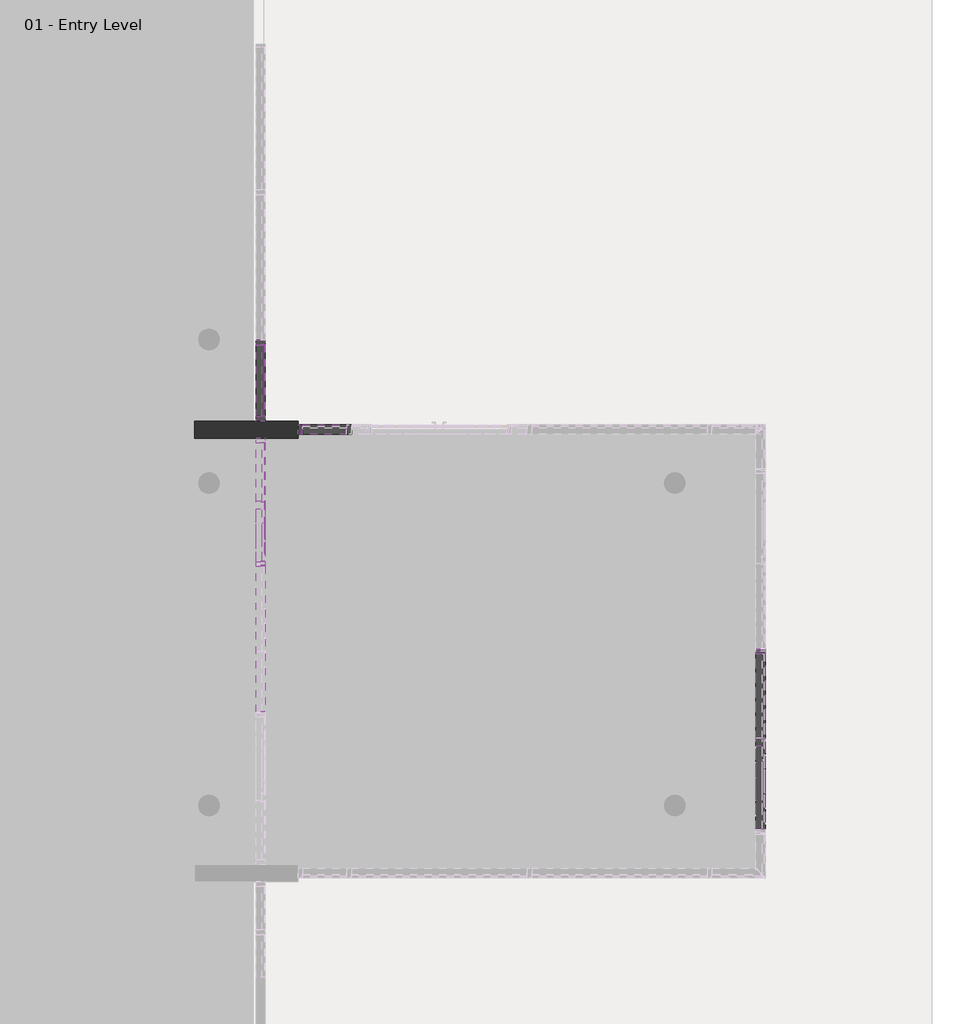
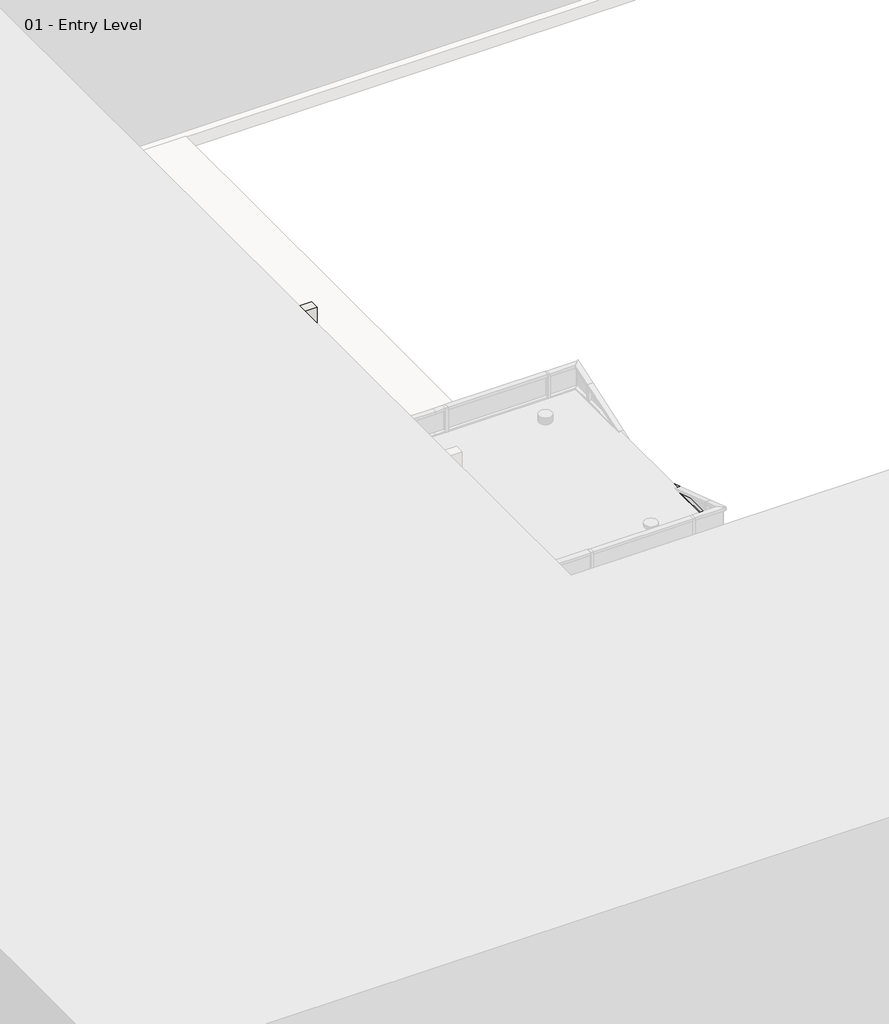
# One storey, part 15 of 34: 99 members, 19 plates, 1 wall.
"""IFC4 building model written with IfcOpenShell, lengths in millimetres."""

from ifc_helpers import new_model, si_unit, origin, origin_with_axes, place, context, project, spatial, polyline, outline, extrude, transform, mapped, element, save
from components import member_2b49869a, member_75074519, member_391b434c, member_9e90ae50, member_6f7cbf6b, member_280eb951, member_97732064, member_4efea63f, member_b0570460, member_a66a3142, member_c840947a, member_9193c932, member_18e22e2d, member_6e77e263, member_47bfaf8a, member_b2bde9e6, member_89bfb2f9, member_7bb0cd3e, member_f4359540, member_659f2ef3, member_5aa65f11, member_b5354135, member_c327c56d, member_2eb7018d, member_02b8d6b6, system_panel_glazed_f9d9f547, system_panel_glazed_3c16f4b8, system_panel_glazed_f6fca0b1, system_panel_glazed_f30ba6ae, system_panel_glazed_bfb2913e, system_panel_glazed_9f006979, system_panel_glazed_0805a858, system_panel_glazed_439dd39a, system_panel_glazed_65392b54

model = new_model("IFC4")

# Units and contexts
model_context = context("Model", 3, world=origin())
ifc_project = project(units=[si_unit("LENGTHUNIT", "METRE", prefix="MILLI")], contexts=[model_context])

# Site, building, storey
site = spatial("IfcSite", under=ifc_project)
building = spatial("IfcBuilding", under=site)
storey = spatial("IfcBuildingStorey", under=building, Name="01 - Entry Level", Elevation=0.0)

# Members
placement = place(None, origin())
member_shape = member_2b49869a(model_context)
element("IfcMember", 1, ObjectType="Rectangular Mullion : 2.5\" x 5\" rectangular", at=placement, inside=storey, context=model_context, shape_type="MappedRepresentation", body=[
    mapped(member_shape, transform((17184.0207476, 23720.35, 9753.6), x_axis=(0.0, 1.0, 0.0), y_axis=(1.0, 0.0, 0.0), z_axis=(0.0, 0.0, -1.0))),
])
element("IfcMember", 2, ObjectType="Rectangular Mullion : 2.5\" x 5\" rectangular", at=placement, inside=storey, context=model_context, shape_type="MappedRepresentation", body=[
    mapped(member_shape, transform((17184.0207476, 20729.5, 9753.6), x_axis=(0.0, 1.0, 0.0), y_axis=(1.0, 0.0, 0.0), z_axis=(0.0, 0.0, -1.0))),
])
member_2_shape = member_75074519(model_context)
element("IfcMember", 3, ObjectType="Rectangular Mullion : 2.5\" x 5\" rectangular", at=placement, inside=storey, context=model_context, shape_type="MappedRepresentation", body=[
    mapped(member_2_shape, transform((17184.0207476, 22659.9, 10972.8), x_axis=(0.0, -1.0, 0.0), y_axis=(1.0, 0.0, 0.0), z_axis=(0.0, 0.0, 1.0))),
])
element("IfcMember", 4, ObjectType="Rectangular Mullion : 2.5\" x 5\" rectangular", at=placement, inside=storey, context=model_context, shape_type="MappedRepresentation", body=[
    mapped(member_2_shape, transform((17184.0207476, 22431.3, 9753.6), x_axis=(0.0, 1.0, 0.0), y_axis=(1.0, 0.0, 0.0), z_axis=(0.0, 0.0, -1.0))),
])
member_3_shape = member_391b434c(model_context)
element("IfcMember", 5, ObjectType="Rectangular Mullion : 2.5\" x 5\" rectangular", at=placement, inside=storey, context=model_context, shape_type="MappedRepresentation", body=[
    mapped(member_3_shape, transform((17184.0207476, 20697.75, 10972.8), x_axis=(0.0, 0.0, 1.0), y_axis=(1.0, 0.0, 0.0), z_axis=(0.0, 1.0, 0.0))),
])
element("IfcMember", 6, ObjectType="Rectangular Mullion : 2.5\" x 5\" rectangular", at=placement, inside=storey, context=model_context, shape_type="MappedRepresentation", body=[
    mapped(member_3_shape, transform((17184.0207476, 23752.1, 0.0), x_axis=(0.0, 0.0, -1.0), y_axis=(1.0, 0.0, 0.0), z_axis=(0.0, -1.0, 0.0))),
])
member_4_shape = member_9e90ae50(model_context)
element("IfcMember", 7, ObjectType="Rectangular Mullion : 2.5\" x 5\" rectangular", at=placement, inside=storey, context=model_context, shape_type="MappedRepresentation", body=[
    mapped(member_4_shape, transform((17184.0207476, 20697.75, 7315.2), x_axis=(0.0, 0.0, 1.0), y_axis=(1.0, 0.0, 0.0), z_axis=(0.0, 1.0, 0.0))),
])
element("IfcMember", 8, ObjectType="Rectangular Mullion : 2.5\" x 5\" rectangular", at=placement, inside=storey, context=model_context, shape_type="MappedRepresentation", body=[
    mapped(member_4_shape, transform((17184.0207476, 20697.75, 8534.4), x_axis=(0.0, 0.0, 1.0), y_axis=(1.0, 0.0, 0.0), z_axis=(0.0, 1.0, 0.0))),
])
element("IfcMember", 9, ObjectType="Rectangular Mullion : 2.5\" x 5\" rectangular", at=placement, inside=storey, context=model_context, shape_type="MappedRepresentation", body=[
    mapped(member_4_shape, transform((17184.0207476, 20697.75, 9753.6), x_axis=(0.0, 0.0, 1.0), y_axis=(1.0, 0.0, 0.0), z_axis=(0.0, 1.0, 0.0))),
])
element("IfcMember", 10, ObjectType="Rectangular Mullion : 2.5\" x 5\" rectangular", at=placement, inside=storey, context=model_context, shape_type="MappedRepresentation", body=[
    mapped(member_shape, transform((17184.0207476, 23720.35, 0.0), x_axis=(0.0, 1.0, 0.0), y_axis=(1.0, 0.0, 0.0), z_axis=(0.0, 0.0, -1.0))),
])
element("IfcMember", 11, ObjectType="Rectangular Mullion : 2.5\" x 5\" rectangular", at=placement, inside=storey, context=model_context, shape_type="MappedRepresentation", body=[
    mapped(member_shape, transform((17184.0207476, 23720.35, 1219.2), x_axis=(0.0, 1.0, 0.0), y_axis=(1.0, 0.0, 0.0), z_axis=(0.0, 0.0, -1.0))),
])
element("IfcMember", 12, ObjectType="Rectangular Mullion : 2.5\" x 5\" rectangular", at=placement, inside=storey, context=model_context, shape_type="MappedRepresentation", body=[
    mapped(member_shape, transform((17184.0207476, 23720.35, 2438.4), x_axis=(0.0, 1.0, 0.0), y_axis=(1.0, 0.0, 0.0), z_axis=(0.0, 0.0, -1.0))),
])
element("IfcMember", 13, ObjectType="Rectangular Mullion : 2.5\" x 5\" rectangular", at=placement, inside=storey, context=model_context, shape_type="MappedRepresentation", body=[
    mapped(member_shape, transform((17184.0207476, 23720.35, 3657.6), x_axis=(0.0, 1.0, 0.0), y_axis=(1.0, 0.0, 0.0), z_axis=(0.0, 0.0, -1.0))),
])
element("IfcMember", 14, ObjectType="Rectangular Mullion : 2.5\" x 5\" rectangular", at=placement, inside=storey, context=model_context, shape_type="MappedRepresentation", body=[
    mapped(member_shape, transform((17184.0207476, 23720.35, 4876.8), x_axis=(0.0, 1.0, 0.0), y_axis=(1.0, 0.0, 0.0), z_axis=(0.0, 0.0, -1.0))),
])
element("IfcMember", 15, ObjectType="Rectangular Mullion : 2.5\" x 5\" rectangular", at=placement, inside=storey, context=model_context, shape_type="MappedRepresentation", body=[
    mapped(member_shape, transform((17184.0207476, 23720.35, 6096.0), x_axis=(0.0, 1.0, 0.0), y_axis=(1.0, 0.0, 0.0), z_axis=(0.0, 0.0, -1.0))),
])
element("IfcMember", 16, ObjectType="Rectangular Mullion : 2.5\" x 5\" rectangular", at=placement, inside=storey, context=model_context, shape_type="MappedRepresentation", body=[
    mapped(member_shape, transform((17184.0207476, 23720.35, 7315.2), x_axis=(0.0, 1.0, 0.0), y_axis=(1.0, 0.0, 0.0), z_axis=(0.0, 0.0, -1.0))),
])
element("IfcMember", 17, ObjectType="Rectangular Mullion : 2.5\" x 5\" rectangular", at=placement, inside=storey, context=model_context, shape_type="MappedRepresentation", body=[
    mapped(member_shape, transform((17184.0207476, 23720.35, 8534.4), x_axis=(0.0, 1.0, 0.0), y_axis=(1.0, 0.0, 0.0), z_axis=(0.0, 0.0, -1.0))),
])
element("IfcMember", 18, ObjectType="Rectangular Mullion : 2.5\" x 5\" rectangular", at=placement, inside=storey, context=model_context, shape_type="MappedRepresentation", body=[
    mapped(member_shape, transform((17184.0207476, 20729.5, 7315.2), x_axis=(0.0, 1.0, 0.0), y_axis=(1.0, 0.0, 0.0), z_axis=(0.0, 0.0, -1.0))),
])
element("IfcMember", 19, ObjectType="Rectangular Mullion : 2.5\" x 5\" rectangular", at=placement, inside=storey, context=model_context, shape_type="MappedRepresentation", body=[
    mapped(member_shape, transform((17184.0207476, 20729.5, 8534.4), x_axis=(0.0, 1.0, 0.0), y_axis=(1.0, 0.0, 0.0), z_axis=(0.0, 0.0, -1.0))),
])
member_5_shape = member_6f7cbf6b(model_context)
element("IfcMember", 20, ObjectType="Rectangular Mullion : 2.5\" x 5\" rectangular", at=placement, inside=storey, context=model_context, shape_type="MappedRepresentation", body=[
    mapped(member_5_shape, transform((17184.0207476, 22367.8, 10972.8), x_axis=(0.0, 0.0, 1.0), y_axis=(1.0, 0.0, 0.0), z_axis=(0.0, 1.0, 0.0))),
])
member_6_shape = member_280eb951(model_context)
element("IfcMember", 21, ObjectType="Rectangular Mullion : 2.5\" x 5\" rectangular", at=placement, inside=storey, context=model_context, shape_type="MappedRepresentation", body=[
    mapped(member_6_shape, transform((17184.0207476, 20729.5, 7031.1207436), x_axis=(0.0, 0.31622776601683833, -0.9486832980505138), y_axis=(1.0, 0.0, 0.0), z_axis=(0.0, -0.9486832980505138, -0.31622776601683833))),
])
member_7_shape = member_97732064(model_context)
element("IfcMember", 22, ObjectType="Rectangular Mullion : 2.5\" x 5\" rectangular", at=placement, inside=storey, context=model_context, shape_type="MappedRepresentation", body=[
    mapped(member_7_shape, transform((17184.0207476, 21581.7377692, 7315.2), x_axis=(0.0, 0.3162277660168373, -0.9486832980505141), y_axis=(1.0, 0.0, 0.0), z_axis=(0.0, -0.948683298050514, -0.3162277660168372))),
])
member_8_shape = member_4efea63f(model_context)
element("IfcMember", 23, ObjectType="Rectangular Mullion : 2.5\" x 5\" rectangular", at=placement, inside=storey, context=model_context, shape_type="MappedRepresentation", body=[
    mapped(member_8_shape, transform((17184.0207476, 21581.7377692, 7315.2), x_axis=(0.0, 0.0, 1.0), y_axis=(1.0, 0.0, 0.0), z_axis=(0.0, 1.0, 0.0))),
])
member_9_shape = member_b0570460(model_context)
element("IfcMember", 24, ObjectType="Rectangular Mullion : 2.5\" x 5\" rectangular", at=placement, inside=storey, context=model_context, shape_type="MappedRepresentation", body=[
    mapped(member_9_shape, transform((17184.0207476, 22367.8, 8534.4), x_axis=(0.0, 0.0, 1.0), y_axis=(1.0, 0.0, 0.0), z_axis=(0.0, 1.0, 0.0))),
])
element("IfcMember", 25, ObjectType="Rectangular Mullion : 2.5\" x 5\" rectangular", at=placement, inside=storey, context=model_context, shape_type="MappedRepresentation", body=[
    mapped(member_9_shape, transform((17184.0207476, 22367.8, 9753.6), x_axis=(0.0, 0.0, 1.0), y_axis=(1.0, 0.0, 0.0), z_axis=(0.0, 1.0, 0.0))),
])
member_10_shape = member_a66a3142(model_context)
element("IfcMember", 26, ObjectType="Rectangular Mullion : 2.5\" x 5\" rectangular", at=placement, inside=storey, context=model_context, shape_type="MappedRepresentation", body=[
    mapped(member_10_shape, transform((17184.0207476, 20729.5, 7031.1207436), x_axis=(0.0, 1.0, 0.0), y_axis=(1.0, 0.0, 0.0), z_axis=(0.0, 0.0, -1.0))),
])
member_11_shape = member_c840947a(model_context)
element("IfcMember", 27, ObjectType="Rectangular Mullion : 2.5\" x 5\" rectangular", at=placement, inside=storey, context=model_context, shape_type="MappedRepresentation", body=[
    mapped(member_11_shape, transform((17184.0207476, 22431.3, 7598.3874103), x_axis=(0.0, 1.0, 0.0), y_axis=(1.0, 0.0, 0.0), z_axis=(0.0, 0.0, -1.0))),
])
element("IfcMember", 28, ObjectType="Rectangular Mullion : 2.5\" x 5\" rectangular", at=placement, inside=storey, context=model_context, shape_type="MappedRepresentation", body=[
    mapped(member_2_shape, transform((17184.0207476, 22431.3, 8534.4), x_axis=(0.0, 1.0, 0.0), y_axis=(1.0, 0.0, 0.0), z_axis=(0.0, 0.0, -1.0))),
])
element("IfcMember", 29, ObjectType="Rectangular Mullion : 2.5\" x 5\" rectangular", at=placement, inside=storey, context=model_context, shape_type="MappedRepresentation", body=[
    mapped(member_2_shape, transform((17184.0207476, 22659.9, 1219.2), x_axis=(0.0, -1.0, 0.0), y_axis=(1.0, 0.0, 0.0), z_axis=(0.0, 0.0, 1.0))),
])
element("IfcMember", 30, ObjectType="Rectangular Mullion : 2.5\" x 5\" rectangular", at=placement, inside=storey, context=model_context, shape_type="MappedRepresentation", body=[
    mapped(member_2_shape, transform((17184.0207476, 22659.9, 2438.4), x_axis=(0.0, -1.0, 0.0), y_axis=(1.0, 0.0, 0.0), z_axis=(0.0, 0.0, 1.0))),
])
element("IfcMember", 31, ObjectType="Rectangular Mullion : 2.5\" x 5\" rectangular", at=placement, inside=storey, context=model_context, shape_type="MappedRepresentation", body=[
    mapped(member_2_shape, transform((17184.0207476, 22659.9, 3657.6), x_axis=(0.0, -1.0, 0.0), y_axis=(1.0, 0.0, 0.0), z_axis=(0.0, 0.0, 1.0))),
])
element("IfcMember", 32, ObjectType="Rectangular Mullion : 2.5\" x 5\" rectangular", at=placement, inside=storey, context=model_context, shape_type="MappedRepresentation", body=[
    mapped(member_2_shape, transform((17184.0207476, 22659.9, 4876.8), x_axis=(0.0, -1.0, 0.0), y_axis=(1.0, 0.0, 0.0), z_axis=(0.0, 0.0, 1.0))),
])
element("IfcMember", 33, ObjectType="Rectangular Mullion : 2.5\" x 5\" rectangular", at=placement, inside=storey, context=model_context, shape_type="MappedRepresentation", body=[
    mapped(member_2_shape, transform((17184.0207476, 22659.9, 6096.0), x_axis=(0.0, -1.0, 0.0), y_axis=(1.0, 0.0, 0.0), z_axis=(0.0, 0.0, 1.0))),
])
element("IfcMember", 34, ObjectType="Rectangular Mullion : 2.5\" x 5\" rectangular", at=placement, inside=storey, context=model_context, shape_type="MappedRepresentation", body=[
    mapped(member_2_shape, transform((17184.0207476, 22659.9, 7315.2), x_axis=(0.0, -1.0, 0.0), y_axis=(1.0, 0.0, 0.0), z_axis=(0.0, 0.0, 1.0))),
])
element("IfcMember", 35, ObjectType="Rectangular Mullion : 2.5\" x 5\" rectangular", at=placement, inside=storey, context=model_context, shape_type="MappedRepresentation", body=[
    mapped(member_2_shape, transform((17184.0207476, 22659.9, 8534.4), x_axis=(0.0, -1.0, 0.0), y_axis=(1.0, 0.0, 0.0), z_axis=(0.0, 0.0, 1.0))),
])
element("IfcMember", 36, ObjectType="Rectangular Mullion : 2.5\" x 5\" rectangular", at=placement, inside=storey, context=model_context, shape_type="MappedRepresentation", body=[
    mapped(member_2_shape, transform((17184.0207476, 22659.9, 9753.6), x_axis=(0.0, -1.0, 0.0), y_axis=(1.0, 0.0, 0.0), z_axis=(0.0, 0.0, 1.0))),
])
member_12_shape = member_9193c932(model_context)
element("IfcMember", 37, ObjectType="Rectangular Mullion : 2.5\" x 5\" rectangular", at=placement, inside=storey, context=model_context, shape_type="MappedRepresentation", body=[
    mapped(member_12_shape, transform((17184.0207476, 23688.6, 10972.8), x_axis=(0.0, 0.0, 1.0), y_axis=(1.0, 0.0, 0.0), z_axis=(0.0, 1.0, 0.0))),
])
element("IfcMember", 38, ObjectType="Rectangular Mullion : 2.5\" x 5\" rectangular", at=placement, inside=storey, context=model_context, shape_type="MappedRepresentation", body=[
    mapped(member_12_shape, transform((17184.0207476, 22723.4, 0.0), x_axis=(0.0, 0.0, -1.0), y_axis=(1.0, 0.0, 0.0), z_axis=(0.0, -1.0, 0.0))),
])
member_13_shape = member_18e22e2d(model_context)
element("IfcMember", 39, ObjectType="Rectangular Mullion : 2.5\" x 5\" rectangular", at=placement, inside=storey, context=model_context, shape_type="MappedRepresentation", body=[
    mapped(member_13_shape, transform((17184.0207476, 23688.6, 1219.2), x_axis=(0.0, 0.0, 1.0), y_axis=(1.0, 0.0, 0.0), z_axis=(0.0, 1.0, 0.0))),
])
element("IfcMember", 40, ObjectType="Rectangular Mullion : 2.5\" x 5\" rectangular", at=placement, inside=storey, context=model_context, shape_type="MappedRepresentation", body=[
    mapped(member_13_shape, transform((17184.0207476, 23688.6, 2438.4), x_axis=(0.0, 0.0, 1.0), y_axis=(1.0, 0.0, 0.0), z_axis=(0.0, 1.0, 0.0))),
])
element("IfcMember", 41, ObjectType="Rectangular Mullion : 2.5\" x 5\" rectangular", at=placement, inside=storey, context=model_context, shape_type="MappedRepresentation", body=[
    mapped(member_13_shape, transform((17184.0207476, 23688.6, 3657.6), x_axis=(0.0, 0.0, 1.0), y_axis=(1.0, 0.0, 0.0), z_axis=(0.0, 1.0, 0.0))),
])
element("IfcMember", 42, ObjectType="Rectangular Mullion : 2.5\" x 5\" rectangular", at=placement, inside=storey, context=model_context, shape_type="MappedRepresentation", body=[
    mapped(member_13_shape, transform((17184.0207476, 23688.6, 4876.8), x_axis=(0.0, 0.0, 1.0), y_axis=(1.0, 0.0, 0.0), z_axis=(0.0, 1.0, 0.0))),
])
element("IfcMember", 43, ObjectType="Rectangular Mullion : 2.5\" x 5\" rectangular", at=placement, inside=storey, context=model_context, shape_type="MappedRepresentation", body=[
    mapped(member_13_shape, transform((17184.0207476, 23688.6, 6096.0), x_axis=(0.0, 0.0, 1.0), y_axis=(1.0, 0.0, 0.0), z_axis=(0.0, 1.0, 0.0))),
])
element("IfcMember", 44, ObjectType="Rectangular Mullion : 2.5\" x 5\" rectangular", at=placement, inside=storey, context=model_context, shape_type="MappedRepresentation", body=[
    mapped(member_13_shape, transform((17184.0207476, 23688.6, 7315.2), x_axis=(0.0, 0.0, 1.0), y_axis=(1.0, 0.0, 0.0), z_axis=(0.0, 1.0, 0.0))),
])
element("IfcMember", 45, ObjectType="Rectangular Mullion : 2.5\" x 5\" rectangular", at=placement, inside=storey, context=model_context, shape_type="MappedRepresentation", body=[
    mapped(member_13_shape, transform((17184.0207476, 23688.6, 8534.4), x_axis=(0.0, 0.0, 1.0), y_axis=(1.0, 0.0, 0.0), z_axis=(0.0, 1.0, 0.0))),
])
element("IfcMember", 46, ObjectType="Rectangular Mullion : 2.5\" x 5\" rectangular", at=placement, inside=storey, context=model_context, shape_type="MappedRepresentation", body=[
    mapped(member_13_shape, transform((17184.0207476, 23688.6, 9753.6), x_axis=(0.0, 0.0, 1.0), y_axis=(1.0, 0.0, 0.0), z_axis=(0.0, 1.0, 0.0))),
])
member_14_shape = member_6e77e263(model_context)
element("IfcMember", 47, ObjectType="Rectangular Mullion : 2.5\" x 5\" rectangular", at=placement, inside=storey, context=model_context, shape_type="MappedRepresentation", body=[
    mapped(member_14_shape, transform((18379.5615197, 22545.6, 0.0), x_axis=(-1.0, 0.0, 0.0), y_axis=(0.0, 1.0, 0.0), z_axis=(0.0, 0.0, -1.0))),
])
element("IfcMember", 48, ObjectType="Rectangular Mullion : 2.5\" x 5\" rectangular", at=placement, inside=storey, context=model_context, shape_type="MappedRepresentation", body=[
    mapped(member_14_shape, transform((23947.0115197, 19548.4, 0.0), x_axis=(0.0, 1.0, 0.0), y_axis=(1.0, 0.0, 0.0), z_axis=(0.0, 0.0, -1.0))),
])
element("IfcMember", 49, ObjectType="Rectangular Mullion : 2.5\" x 5\" rectangular", at=placement, inside=storey, context=model_context, shape_type="MappedRepresentation", body=[
    mapped(member_14_shape, transform((18379.5615197, 22545.6, 609.6), x_axis=(-1.0, 0.0, 0.0), y_axis=(0.0, 1.0, 0.0), z_axis=(0.0, 0.0, -1.0))),
])
element("IfcMember", 50, ObjectType="Rectangular Mullion : 2.5\" x 5\" rectangular", at=placement, inside=storey, context=model_context, shape_type="MappedRepresentation", body=[
    mapped(member_14_shape, transform((23947.0115197, 19548.4, 609.6), x_axis=(0.0, 1.0, 0.0), y_axis=(1.0, 0.0, 0.0), z_axis=(0.0, 0.0, -1.0))),
])
element("IfcMember", 51, ObjectType="Rectangular Mullion : 2.5\" x 5\" rectangular", at=placement, inside=storey, context=model_context, shape_type="MappedRepresentation", body=[
    mapped(member_14_shape, transform((23947.0115197, 19548.4, 1219.2), x_axis=(0.0, 1.0, 0.0), y_axis=(1.0, 0.0, 0.0), z_axis=(0.0, 0.0, -1.0))),
])
element("IfcMember", 52, ObjectType="Rectangular Mullion : 2.5\" x 5\" rectangular", at=placement, inside=storey, context=model_context, shape_type="MappedRepresentation", body=[
    mapped(member_14_shape, transform((23947.0115197, 19548.4, 1828.8), x_axis=(0.0, 1.0, 0.0), y_axis=(1.0, 0.0, 0.0), z_axis=(0.0, 0.0, -1.0))),
])
element("IfcMember", 53, ObjectType="Rectangular Mullion : 2.5\" x 5\" rectangular", at=placement, inside=storey, context=model_context, shape_type="MappedRepresentation", body=[
    mapped(member_14_shape, transform((23947.0115197, 19548.4, 2438.4), x_axis=(0.0, 1.0, 0.0), y_axis=(1.0, 0.0, 0.0), z_axis=(0.0, 0.0, -1.0))),
])
element("IfcMember", 54, ObjectType="Rectangular Mullion : 2.5\" x 5\" rectangular", at=placement, inside=storey, context=model_context, shape_type="MappedRepresentation", body=[
    mapped(member_14_shape, transform((23947.0115197, 19548.4, 3048.0), x_axis=(0.0, 1.0, 0.0), y_axis=(1.0, 0.0, 0.0), z_axis=(0.0, 0.0, -1.0))),
])
element("IfcMember", 55, ObjectType="Rectangular Mullion : 2.5\" x 5\" rectangular", at=placement, inside=storey, context=model_context, shape_type="MappedRepresentation", body=[
    mapped(member_14_shape, transform((23947.0115197, 19548.4, 3657.6), x_axis=(0.0, 1.0, 0.0), y_axis=(1.0, 0.0, 0.0), z_axis=(0.0, 0.0, -1.0))),
])
element("IfcMember", 56, ObjectType="Rectangular Mullion : 2.5\" x 5\" rectangular", at=placement, inside=storey, context=model_context, shape_type="MappedRepresentation", body=[
    mapped(member_14_shape, transform((23947.0115197, 19548.4, 4267.2), x_axis=(0.0, 1.0, 0.0), y_axis=(1.0, 0.0, 0.0), z_axis=(0.0, 0.0, -1.0))),
])
element("IfcMember", 57, ObjectType="Rectangular Mullion : 2.5\" x 5\" rectangular", at=placement, inside=storey, context=model_context, shape_type="MappedRepresentation", body=[
    mapped(member_14_shape, transform((23947.0115197, 19548.4, 4876.8), x_axis=(0.0, 1.0, 0.0), y_axis=(1.0, 0.0, 0.0), z_axis=(0.0, 0.0, -1.0))),
])
element("IfcMember", 58, ObjectType="Rectangular Mullion : 2.5\" x 5\" rectangular", at=placement, inside=storey, context=model_context, shape_type="MappedRepresentation", body=[
    mapped(member_14_shape, transform((23947.0115197, 19548.4, 5486.4), x_axis=(0.0, 1.0, 0.0), y_axis=(1.0, 0.0, 0.0), z_axis=(0.0, 0.0, -1.0))),
])
member_15_shape = member_47bfaf8a(model_context)
element("IfcMember", 59, ObjectType="Rectangular Mullion : 2.5\" x 5\" rectangular", at=placement, inside=storey, context=model_context, shape_type="MappedRepresentation", body=[
    mapped(member_15_shape, transform((17688.9115197, 22545.6, 0.0), x_axis=(-1.0, 0.0, 0.0), y_axis=(0.0, 1.0, 0.0), z_axis=(0.0, 0.0, -1.0))),
])
element("IfcMember", 60, ObjectType="Rectangular Mullion : 2.5\" x 5\" rectangular", at=placement, inside=storey, context=model_context, shape_type="MappedRepresentation", body=[
    mapped(member_15_shape, transform((17688.9115197, 22545.6, 609.6), x_axis=(-1.0, 0.0, 0.0), y_axis=(0.0, 1.0, 0.0), z_axis=(0.0, 0.0, -1.0))),
])
element("IfcMember", 61, ObjectType="Rectangular Mullion : 2.5\" x 5\" rectangular", at=placement, inside=storey, context=model_context, shape_type="MappedRepresentation", body=[
    mapped(member_15_shape, transform((17688.9115197, 22545.6, 1219.2), x_axis=(-1.0, 0.0, 0.0), y_axis=(0.0, 1.0, 0.0), z_axis=(0.0, 0.0, -1.0))),
])
element("IfcMember", 62, ObjectType="Rectangular Mullion : 2.5\" x 5\" rectangular", at=placement, inside=storey, context=model_context, shape_type="MappedRepresentation", body=[
    mapped(member_15_shape, transform((17688.9115197, 22545.6, 2438.4), x_axis=(-1.0, 0.0, 0.0), y_axis=(0.0, 1.0, 0.0), z_axis=(0.0, 0.0, -1.0))),
])
element("IfcMember", 63, ObjectType="Rectangular Mullion : 2.5\" x 5\" rectangular", at=placement, inside=storey, context=model_context, shape_type="MappedRepresentation", body=[
    mapped(member_15_shape, transform((17688.9115197, 22545.6, 3048.0), x_axis=(-1.0, 0.0, 0.0), y_axis=(0.0, 1.0, 0.0), z_axis=(0.0, 0.0, -1.0))),
])
element("IfcMember", 64, ObjectType="Rectangular Mullion : 2.5\" x 5\" rectangular", at=placement, inside=storey, context=model_context, shape_type="MappedRepresentation", body=[
    mapped(member_15_shape, transform((17688.9115197, 22545.6, 3657.6), x_axis=(-1.0, 0.0, 0.0), y_axis=(0.0, 1.0, 0.0), z_axis=(0.0, 0.0, -1.0))),
])
element("IfcMember", 65, ObjectType="Rectangular Mullion : 2.5\" x 5\" rectangular", at=placement, inside=storey, context=model_context, shape_type="MappedRepresentation", body=[
    mapped(member_15_shape, transform((17688.9115197, 22545.6, 4267.2), x_axis=(-1.0, 0.0, 0.0), y_axis=(0.0, 1.0, 0.0), z_axis=(0.0, 0.0, -1.0))),
])
element("IfcMember", 66, ObjectType="Rectangular Mullion : 2.5\" x 5\" rectangular", at=placement, inside=storey, context=model_context, shape_type="MappedRepresentation", body=[
    mapped(member_15_shape, transform((17688.9115197, 22545.6, 4876.8), x_axis=(-1.0, 0.0, 0.0), y_axis=(0.0, 1.0, 0.0), z_axis=(0.0, 0.0, -1.0))),
])
element("IfcMember", 67, ObjectType="Rectangular Mullion : 2.5\" x 5\" rectangular", at=placement, inside=storey, context=model_context, shape_type="MappedRepresentation", body=[
    mapped(member_15_shape, transform((17688.9115197, 22545.6, 5486.4), x_axis=(-1.0, 0.0, 0.0), y_axis=(0.0, 1.0, 0.0), z_axis=(0.0, 0.0, -1.0))),
])
element("IfcMember", 68, ObjectType="Rectangular Mullion : 2.5\" x 5\" rectangular", at=placement, inside=storey, context=model_context, shape_type="MappedRepresentation", body=[
    mapped(member_15_shape, transform((17688.9115197, 22545.6, 6096.0), x_axis=(-1.0, 0.0, 0.0), y_axis=(0.0, 1.0, 0.0), z_axis=(0.0, 0.0, -1.0))),
])
member_16_shape = member_b2bde9e6(model_context)
element("IfcMember", 69, ObjectType="Rectangular Mullion : 2.5\" x 5\" rectangular", at=placement, inside=storey, context=model_context, shape_type="MappedRepresentation", body=[
    mapped(member_16_shape, transform((23947.0115197, 19580.15, 0.0), x_axis=(0.0, 0.0, -1.0), y_axis=(1.0, 0.0, 0.0), z_axis=(0.0, -1.0, 0.0))),
])
member_17_shape = member_89bfb2f9(model_context)
element("IfcMember", 70, ObjectType="Rectangular Mullion : 2.5\" x 5\" rectangular", at=placement, inside=storey, context=model_context, shape_type="MappedRepresentation", body=[
    mapped(member_17_shape, transform((23947.0115197, 19516.65, 609.6), x_axis=(0.0, 0.0, 1.0), y_axis=(1.0, 0.0, 0.0), z_axis=(0.0, 1.0, 0.0))),
])
element("IfcMember", 71, ObjectType="Rectangular Mullion : 2.5\" x 5\" rectangular", at=placement, inside=storey, context=model_context, shape_type="MappedRepresentation", body=[
    mapped(member_17_shape, transform((23947.0115197, 19516.65, 1219.2), x_axis=(0.0, 0.0, 1.0), y_axis=(1.0, 0.0, 0.0), z_axis=(0.0, 1.0, 0.0))),
])
element("IfcMember", 72, ObjectType="Rectangular Mullion : 2.5\" x 5\" rectangular", at=placement, inside=storey, context=model_context, shape_type="MappedRepresentation", body=[
    mapped(member_17_shape, transform((23947.0115197, 19516.65, 1828.8), x_axis=(0.0, 0.0, 1.0), y_axis=(1.0, 0.0, 0.0), z_axis=(0.0, 1.0, 0.0))),
])
element("IfcMember", 73, ObjectType="Rectangular Mullion : 2.5\" x 5\" rectangular", at=placement, inside=storey, context=model_context, shape_type="MappedRepresentation", body=[
    mapped(member_17_shape, transform((23947.0115197, 19516.65, 2438.4), x_axis=(0.0, 0.0, 1.0), y_axis=(1.0, 0.0, 0.0), z_axis=(0.0, 1.0, 0.0))),
])
element("IfcMember", 74, ObjectType="Rectangular Mullion : 2.5\" x 5\" rectangular", at=placement, inside=storey, context=model_context, shape_type="MappedRepresentation", body=[
    mapped(member_17_shape, transform((23947.0115197, 19516.65, 3048.0), x_axis=(0.0, 0.0, 1.0), y_axis=(1.0, 0.0, 0.0), z_axis=(0.0, 1.0, 0.0))),
])
element("IfcMember", 75, ObjectType="Rectangular Mullion : 2.5\" x 5\" rectangular", at=placement, inside=storey, context=model_context, shape_type="MappedRepresentation", body=[
    mapped(member_17_shape, transform((23947.0115197, 19516.65, 3657.6), x_axis=(0.0, 0.0, 1.0), y_axis=(1.0, 0.0, 0.0), z_axis=(0.0, 1.0, 0.0))),
])
element("IfcMember", 76, ObjectType="Rectangular Mullion : 2.5\" x 5\" rectangular", at=placement, inside=storey, context=model_context, shape_type="MappedRepresentation", body=[
    mapped(member_17_shape, transform((23947.0115197, 19516.65, 4267.2), x_axis=(0.0, 0.0, 1.0), y_axis=(1.0, 0.0, 0.0), z_axis=(0.0, 1.0, 0.0))),
])
element("IfcMember", 77, ObjectType="Rectangular Mullion : 2.5\" x 5\" rectangular", at=placement, inside=storey, context=model_context, shape_type="MappedRepresentation", body=[
    mapped(member_17_shape, transform((23947.0115197, 19516.65, 4876.8), x_axis=(0.0, 0.0, 1.0), y_axis=(1.0, 0.0, 0.0), z_axis=(0.0, 1.0, 0.0))),
])
element("IfcMember", 78, ObjectType="Rectangular Mullion : 2.5\" x 5\" rectangular", at=placement, inside=storey, context=model_context, shape_type="MappedRepresentation", body=[
    mapped(member_17_shape, transform((23947.0115197, 19516.65, 5486.4), x_axis=(0.0, 0.0, 1.0), y_axis=(1.0, 0.0, 0.0), z_axis=(0.0, 1.0, 0.0))),
])
element("IfcMember", 79, ObjectType="Rectangular Mullion : 2.5\" x 5\" rectangular", at=placement, inside=storey, context=model_context, shape_type="MappedRepresentation", body=[
    mapped(member_17_shape, transform((23947.0115197, 19516.65, 6096.0), x_axis=(0.0, 0.0, 1.0), y_axis=(1.0, 0.0, 0.0), z_axis=(0.0, 1.0, 0.0))),
])
member_18_shape = member_7bb0cd3e(model_context)
element("IfcMember", 80, ObjectType="Rectangular Mullion : 2.5\" x 5\" rectangular", at=placement, inside=storey, context=model_context, shape_type="MappedRepresentation", body=[
    mapped(member_18_shape, transform((23947.0115197, 19548.4, 6316.1333333), x_axis=(0.0, 0.316227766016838, 0.9486832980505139), y_axis=(1.0, 0.0, 0.0), z_axis=(0.0, 0.9486832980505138, -0.31622776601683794))),
])
member_19_shape = member_f4359540(model_context)
element("IfcMember", 81, ObjectType="Rectangular Mullion : 2.5\" x 5\" rectangular", at=placement, inside=storey, context=model_context, shape_type="MappedRepresentation", body=[
    mapped(member_19_shape, transform((23947.0115197, 19548.4, 6096.0), x_axis=(0.0, 1.0, 0.0), y_axis=(1.0, 0.0, 0.0), z_axis=(0.0, 0.0, -1.0))),
])
member_20_shape = member_659f2ef3(model_context)
element("IfcMember", 82, ObjectType="Rectangular Mullion : 2.5\" x 5\" rectangular", at=placement, inside=storey, context=model_context, shape_type="MappedRepresentation", body=[
    mapped(member_20_shape, transform((23947.0115197, 18380.0, 6705.6), x_axis=(0.0, 0.0, 1.0), y_axis=(1.0, 0.0, 0.0), z_axis=(0.0, 1.0, 0.0))),
])
member_21_shape = member_5aa65f11(model_context)
element("IfcMember", 83, ObjectType="Rectangular Mullion : 2.5\" x 5\" rectangular", at=placement, inside=storey, context=model_context, shape_type="MappedRepresentation", body=[
    mapped(member_21_shape, transform((17752.4115197, 22545.6, 7315.2), x_axis=(0.0, 0.0, 1.0), y_axis=(0.0, 1.0, 0.0), z_axis=(-1.0, 0.0, 0.0))),
])
element("IfcMember", 84, ObjectType="Rectangular Mullion : 2.5\" x 5\" rectangular", at=placement, inside=storey, context=model_context, shape_type="MappedRepresentation", body=[
    mapped(member_21_shape, transform((18347.8115197, 22545.6, 0.0), x_axis=(0.0, 0.0, -1.0), y_axis=(0.0, 1.0, 0.0), z_axis=(1.0, 0.0, 0.0))),
])
member_22_shape = member_b5354135(model_context)
element("IfcMember", 85, ObjectType="Rectangular Mullion : 2.5\" x 5\" rectangular", at=placement, inside=storey, context=model_context, shape_type="MappedRepresentation", body=[
    mapped(member_22_shape, transform((17752.4115197, 22545.6, 609.6), x_axis=(0.0, 0.0, 1.0), y_axis=(0.0, 1.0, 0.0), z_axis=(-1.0, 0.0, 0.0))),
])
element("IfcMember", 86, ObjectType="Rectangular Mullion : 2.5\" x 5\" rectangular", at=placement, inside=storey, context=model_context, shape_type="MappedRepresentation", body=[
    mapped(member_22_shape, transform((17752.4115197, 22545.6, 1219.2), x_axis=(0.0, 0.0, 1.0), y_axis=(0.0, 1.0, 0.0), z_axis=(-1.0, 0.0, 0.0))),
])
element("IfcMember", 87, ObjectType="Rectangular Mullion : 2.5\" x 5\" rectangular", at=placement, inside=storey, context=model_context, shape_type="MappedRepresentation", body=[
    mapped(member_22_shape, transform((17752.4115197, 22545.6, 1828.8), x_axis=(0.0, 0.0, 1.0), y_axis=(0.0, 1.0, 0.0), z_axis=(-1.0, 0.0, 0.0))),
])
element("IfcMember", 88, ObjectType="Rectangular Mullion : 2.5\" x 5\" rectangular", at=placement, inside=storey, context=model_context, shape_type="MappedRepresentation", body=[
    mapped(member_22_shape, transform((17752.4115197, 22545.6, 2438.4), x_axis=(0.0, 0.0, 1.0), y_axis=(0.0, 1.0, 0.0), z_axis=(-1.0, 0.0, 0.0))),
])
element("IfcMember", 89, ObjectType="Rectangular Mullion : 2.5\" x 5\" rectangular", at=placement, inside=storey, context=model_context, shape_type="MappedRepresentation", body=[
    mapped(member_22_shape, transform((17752.4115197, 22545.6, 3048.0), x_axis=(0.0, 0.0, 1.0), y_axis=(0.0, 1.0, 0.0), z_axis=(-1.0, 0.0, 0.0))),
])
element("IfcMember", 90, ObjectType="Rectangular Mullion : 2.5\" x 5\" rectangular", at=placement, inside=storey, context=model_context, shape_type="MappedRepresentation", body=[
    mapped(member_22_shape, transform((17752.4115197, 22545.6, 3657.6), x_axis=(0.0, 0.0, 1.0), y_axis=(0.0, 1.0, 0.0), z_axis=(-1.0, 0.0, 0.0))),
])
element("IfcMember", 91, ObjectType="Rectangular Mullion : 2.5\" x 5\" rectangular", at=placement, inside=storey, context=model_context, shape_type="MappedRepresentation", body=[
    mapped(member_22_shape, transform((17752.4115197, 22545.6, 4267.2), x_axis=(0.0, 0.0, 1.0), y_axis=(0.0, 1.0, 0.0), z_axis=(-1.0, 0.0, 0.0))),
])
element("IfcMember", 92, ObjectType="Rectangular Mullion : 2.5\" x 5\" rectangular", at=placement, inside=storey, context=model_context, shape_type="MappedRepresentation", body=[
    mapped(member_22_shape, transform((17752.4115197, 22545.6, 4876.8), x_axis=(0.0, 0.0, 1.0), y_axis=(0.0, 1.0, 0.0), z_axis=(-1.0, 0.0, 0.0))),
])
element("IfcMember", 93, ObjectType="Rectangular Mullion : 2.5\" x 5\" rectangular", at=placement, inside=storey, context=model_context, shape_type="MappedRepresentation", body=[
    mapped(member_22_shape, transform((17752.4115197, 22545.6, 5486.4), x_axis=(0.0, 0.0, 1.0), y_axis=(0.0, 1.0, 0.0), z_axis=(-1.0, 0.0, 0.0))),
])
element("IfcMember", 94, ObjectType="Rectangular Mullion : 2.5\" x 5\" rectangular", at=placement, inside=storey, context=model_context, shape_type="MappedRepresentation", body=[
    mapped(member_22_shape, transform((17752.4115197, 22545.6, 6096.0), x_axis=(0.0, 0.0, 1.0), y_axis=(0.0, 1.0, 0.0), z_axis=(-1.0, 0.0, 0.0))),
])
element("IfcMember", 95, ObjectType="Rectangular Mullion : 2.5\" x 5\" rectangular", at=placement, inside=storey, context=model_context, shape_type="MappedRepresentation", body=[
    mapped(member_22_shape, transform((17752.4115197, 22545.6, 6705.6), x_axis=(0.0, 0.0, 1.0), y_axis=(0.0, 1.0, 0.0), z_axis=(-1.0, 0.0, 0.0))),
])
element("IfcMember", 96, ObjectType="Rectangular Mullion : 2.5\" x 5\" rectangular", at=placement, inside=storey, context=model_context, shape_type="MappedRepresentation", body=[
    mapped(member_15_shape, transform((17688.9115197, 22545.6, 6705.6), x_axis=(-1.0, 0.0, 0.0), y_axis=(0.0, 1.0, 0.0), z_axis=(0.0, 0.0, -1.0))),
])
member_23_shape = member_c327c56d(model_context)
element("IfcMember", 97, ObjectType="Rectangular Mullion : 2.5\" x 5\" rectangular", at=placement, inside=storey, context=model_context, shape_type="MappedRepresentation", body=[
    mapped(member_23_shape, transform((17688.9115197, 22545.6, 2165.35), x_axis=(-1.0, 0.0, 0.0), y_axis=(0.0, 1.0, 0.0), z_axis=(0.0, 0.0, -1.0))),
])
member_24_shape = member_2eb7018d(model_context)
element("IfcMember", 98, ObjectType="Rectangular Mullion : 2.5\" x 5\" rectangular", at=placement, inside=storey, context=model_context, shape_type="MappedRepresentation", body=[
    mapped(member_24_shape, transform((18411.3115197, 22545.6, 7315.2), x_axis=(0.0, 0.0, 1.0), y_axis=(0.0, 1.0, 0.0), z_axis=(-1.0, 0.0, 0.0))),
])
member_25_shape = member_02b8d6b6(model_context)
element("IfcMember", 99, ObjectType="Rectangular Mullion : 2.5\" x 5\" rectangular", at=placement, inside=storey, context=model_context, shape_type="MappedRepresentation", body=[
    mapped(member_25_shape, transform((17688.9115197, 22545.6, 1828.8), x_axis=(-1.0, 0.0, 0.0), y_axis=(0.0, 1.0, 0.0), z_axis=(0.0, 0.0, -1.0))),
])

# Plates
system_panel_glazed_shape = system_panel_glazed_f9d9f547(model_context)
element("IfcPlate", 100, ObjectType="System Panel : Glazed", at=placement, inside=storey, context=model_context, shape_type="MappedRepresentation", body=[
    mapped(system_panel_glazed_shape, transform((17184.0207476, 21023.4665689, 7108.6389541), x_axis=(0.0, 1.0, 0.0), y_axis=(-1.0, 0.0, 0.0), z_axis=(0.0, 0.0, 1.0))),
])
system_panel_glazed_2_shape = system_panel_glazed_3c16f4b8(model_context)
element("IfcPlate", 101, ObjectType="System Panel : Glazed", at=placement, inside=storey, context=model_context, shape_type="MappedRepresentation", body=[
    mapped(system_panel_glazed_2_shape, transform((17184.0207476, 21564.525, 7346.95), x_axis=(0.0, 1.0, 0.0), y_axis=(-1.0, 0.0, 0.0), z_axis=(0.0, 0.0, 1.0))),
])
system_panel_glazed_3_shape = system_panel_glazed_f6fca0b1(model_context)
element("IfcPlate", 102, ObjectType="System Panel : Glazed", at=placement, inside=storey, context=model_context, shape_type="MappedRepresentation", body=[
    mapped(system_panel_glazed_3_shape, transform((17184.0207476, 21564.525, 8566.15), x_axis=(0.0, 1.0, 0.0), y_axis=(-1.0, 0.0, 0.0), z_axis=(0.0, 0.0, 1.0))),
])
system_panel_glazed_4_shape = system_panel_glazed_f30ba6ae(model_context)
element("IfcPlate", 103, ObjectType="System Panel : Glazed", at=placement, inside=storey, context=model_context, shape_type="MappedRepresentation", body=[
    mapped(system_panel_glazed_4_shape, transform((17184.0207476, 21564.525, 9785.35), x_axis=(0.0, 1.0, 0.0), y_axis=(-1.0, 0.0, 0.0), z_axis=(0.0, 0.0, 1.0))),
])
system_panel_glazed_5_shape = system_panel_glazed_bfb2913e(model_context)
element("IfcPlate", 104, ObjectType="System Panel : Glazed", at=placement, inside=storey, context=model_context, shape_type="MappedRepresentation", body=[
    mapped(system_panel_glazed_5_shape, transform((17184.0207476, 23206.0, 63.5), x_axis=(0.0, 1.0, 0.0), y_axis=(-1.0, 0.0, 0.0), z_axis=(0.0, 0.0, 1.0))),
])
element("IfcPlate", 105, ObjectType="System Panel : Glazed", at=placement, inside=storey, context=model_context, shape_type="MappedRepresentation", body=[
    mapped(system_panel_glazed_5_shape, transform((17184.0207476, 23206.0, 9785.35), x_axis=(0.0, 1.0, 0.0), y_axis=(-1.0, 0.0, 0.0), z_axis=(0.0, 0.0, 1.0))),
])
system_panel_glazed_6_shape = system_panel_glazed_9f006979(model_context)
element("IfcPlate", 106, ObjectType="System Panel : Glazed", at=placement, inside=storey, context=model_context, shape_type="MappedRepresentation", body=[
    mapped(system_panel_glazed_6_shape, transform((17184.0207476, 23206.0, 1250.95), x_axis=(0.0, 1.0, 0.0), y_axis=(-1.0, 0.0, 0.0), z_axis=(0.0, 0.0, 1.0))),
])
element("IfcPlate", 107, ObjectType="System Panel : Glazed", at=placement, inside=storey, context=model_context, shape_type="MappedRepresentation", body=[
    mapped(system_panel_glazed_6_shape, transform((17184.0207476, 23206.0, 2470.15), x_axis=(0.0, 1.0, 0.0), y_axis=(-1.0, 0.0, 0.0), z_axis=(0.0, 0.0, 1.0))),
])
element("IfcPlate", 108, ObjectType="System Panel : Glazed", at=placement, inside=storey, context=model_context, shape_type="MappedRepresentation", body=[
    mapped(system_panel_glazed_6_shape, transform((17184.0207476, 23206.0, 3689.35), x_axis=(0.0, 1.0, 0.0), y_axis=(-1.0, 0.0, 0.0), z_axis=(0.0, 0.0, 1.0))),
])
element("IfcPlate", 109, ObjectType="System Panel : Glazed", at=placement, inside=storey, context=model_context, shape_type="MappedRepresentation", body=[
    mapped(system_panel_glazed_6_shape, transform((17184.0207476, 23206.0, 4908.55), x_axis=(0.0, 1.0, 0.0), y_axis=(-1.0, 0.0, 0.0), z_axis=(0.0, 0.0, 1.0))),
])
element("IfcPlate", 110, ObjectType="System Panel : Glazed", at=placement, inside=storey, context=model_context, shape_type="MappedRepresentation", body=[
    mapped(system_panel_glazed_6_shape, transform((17184.0207476, 23206.0, 6127.75), x_axis=(0.0, 1.0, 0.0), y_axis=(-1.0, 0.0, 0.0), z_axis=(0.0, 0.0, 1.0))),
])
element("IfcPlate", 111, ObjectType="System Panel : Glazed", at=placement, inside=storey, context=model_context, shape_type="MappedRepresentation", body=[
    mapped(system_panel_glazed_6_shape, transform((17184.0207476, 23206.0, 7346.95), x_axis=(0.0, 1.0, 0.0), y_axis=(-1.0, 0.0, 0.0), z_axis=(0.0, 0.0, 1.0))),
])
element("IfcPlate", 112, ObjectType="System Panel : Glazed", at=placement, inside=storey, context=model_context, shape_type="MappedRepresentation", body=[
    mapped(system_panel_glazed_6_shape, transform((17184.0207476, 23206.0, 8566.15), x_axis=(0.0, 1.0, 0.0), y_axis=(-1.0, 0.0, 0.0), z_axis=(0.0, 0.0, 1.0))),
])
system_panel_glazed_7_shape = system_panel_glazed_0805a858(model_context)
element("IfcPlate", 113, ObjectType="System Panel : Glazed", at=placement, inside=storey, context=model_context, shape_type="MappedRepresentation", body=[
    mapped(system_panel_glazed_7_shape, transform((18050.1115197, 22545.6, 63.5), x_axis=(-1.0, 0.0, 0.0), y_axis=(0.0, -1.0, 0.0), z_axis=(0.0, 0.0, 1.0))),
])
system_panel_glazed_8_shape = system_panel_glazed_439dd39a(model_context)
element("IfcPlate", 114, ObjectType="System Panel : Glazed", at=placement, inside=storey, context=model_context, shape_type="MappedRepresentation", body=[
    mapped(system_panel_glazed_8_shape, transform((18050.1115197, 22545.6, 641.35), x_axis=(-1.0, 0.0, 0.0), y_axis=(0.0, -1.0, 0.0), z_axis=(0.0, 0.0, 1.0))),
])
element("IfcPlate", 115, ObjectType="System Panel : Glazed", at=placement, inside=storey, context=model_context, shape_type="MappedRepresentation", body=[
    mapped(system_panel_glazed_8_shape, transform((18050.1115197, 22545.6, 1250.95), x_axis=(-1.0, 0.0, 0.0), y_axis=(0.0, -1.0, 0.0), z_axis=(0.0, 0.0, 1.0))),
])
element("IfcPlate", 116, ObjectType="System Panel : Glazed", at=placement, inside=storey, context=model_context, shape_type="MappedRepresentation", body=[
    mapped(system_panel_glazed_8_shape, transform((18050.1115197, 22545.6, 2470.15), x_axis=(-1.0, 0.0, 0.0), y_axis=(0.0, -1.0, 0.0), z_axis=(0.0, 0.0, 1.0))),
])
element("IfcPlate", 117, ObjectType="System Panel : Glazed", at=placement, inside=storey, context=model_context, shape_type="MappedRepresentation", body=[
    mapped(system_panel_glazed_8_shape, transform((18050.1115197, 22545.6, 3079.75), x_axis=(-1.0, 0.0, 0.0), y_axis=(0.0, -1.0, 0.0), z_axis=(0.0, 0.0, 1.0))),
])
system_panel_glazed_9_shape = system_panel_glazed_65392b54(model_context)
element("IfcPlate", 118, ObjectType="System Panel : Glazed", at=placement, inside=storey, context=model_context, shape_type="MappedRepresentation", body=[
    mapped(system_panel_glazed_9_shape, transform((18050.1115197, 22545.6, 1860.55), x_axis=(-1.0, 0.0, 0.0), y_axis=(0.0, -1.0, 0.0), z_axis=(0.0, 0.0, 1.0))),
])

# Wall
element("IfcWall", 119, ObjectType="9\" concrete", at=placement, inside=storey, context=model_context, shape_type="SweptSolid", body=[
    extrude(outline(polyline([(17688.9115197, 22431.3), (16288.9115197, 22431.3), (16288.9115197, 22659.9), (17688.9115197, 22659.9), (17688.9115197, 22431.3)])), origin_with_axes(), (0.0, 0.0, 1.0), 10972.8),
])

save(model, "model.ifc")
